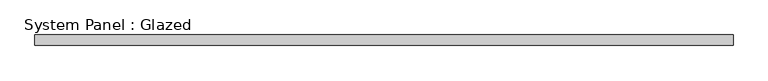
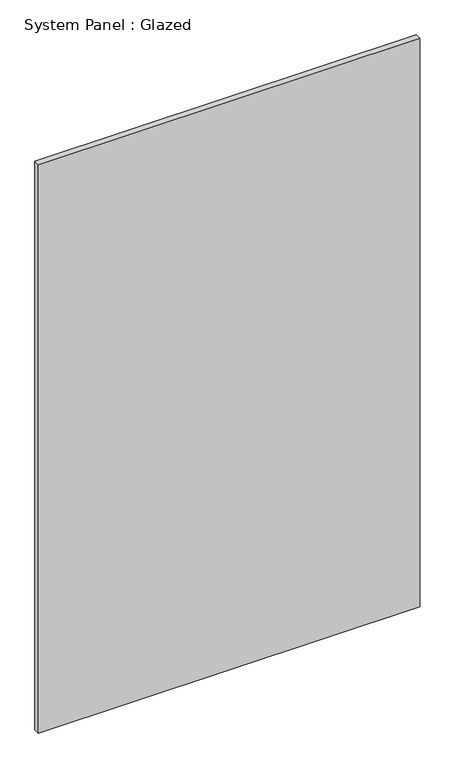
"""IFC4 building model written with IfcOpenShell, lengths in millimetres: plate geometry, System Panel : Glazed."""

from ifc_helpers import new_model, si_unit, origin, origin_with_axes, place, context, project, spatial, polyline, outline, extrude, source, transform, mapped, element, save


def system_panel_glazed_e6c535d0(model_context):
    return source(origin(), model_context, "Body", "SweptSolid", [
        extrude(outline(polyline([(842.957653, 19.05), (-842.957653, 19.05), (-842.957653, 44.45), (842.957653, 44.45), (842.957653, 19.05)])), origin_with_axes(), (0.0, 0.0, 1.0), 2657.2475524),
    ])


if __name__ == "__main__":
    model = new_model("IFC4")
    model_context = context("Model", 3, world=origin())
    ifc_project = project(units=[si_unit("LENGTHUNIT", "METRE", prefix="MILLI")], contexts=[model_context])
    site = spatial("IfcSite", under=ifc_project)
    building = spatial("IfcBuilding", under=site)
    placement = place(None, origin())
    system_panel_glazed_shape = system_panel_glazed_e6c535d0(model_context)
    element("IfcPlate", 1, ObjectType="System Panel : Glazed", at=placement, inside=building, context=model_context, shape_type="MappedRepresentation", body=[
        mapped(system_panel_glazed_shape, transform((0.0, 0.0, 0.0), x_axis=(1.0, 0.0, 0.0), y_axis=(0.0, 1.0, 0.0), z_axis=(0.0, 0.0, 1.0))),
    ])
    save(model, "model.ifc")
